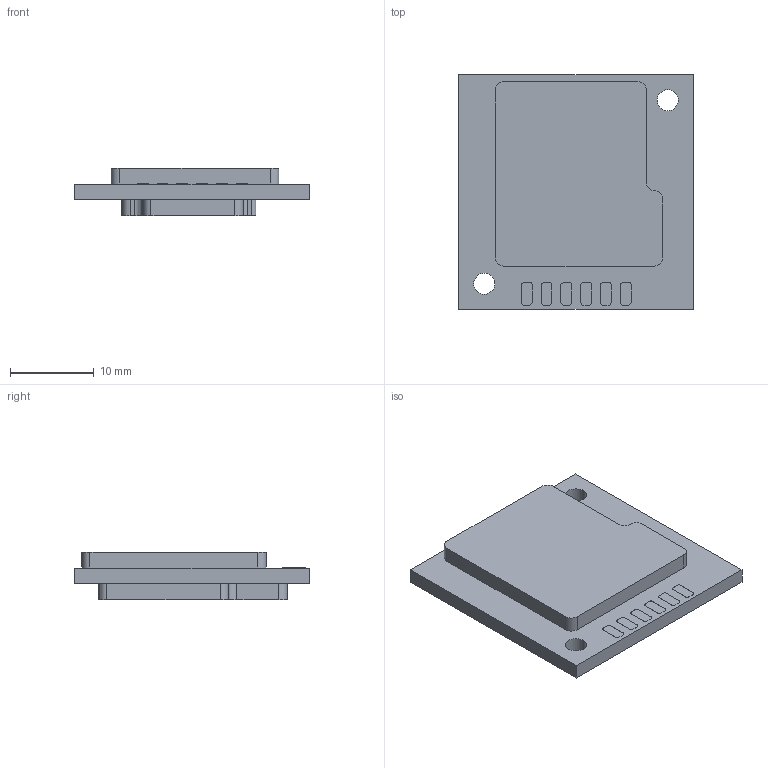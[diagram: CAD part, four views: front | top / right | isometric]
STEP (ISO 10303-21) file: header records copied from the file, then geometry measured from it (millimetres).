
FILE_DESCRIPTION (( 'STEP AP214' ), '1' );
FILE_NAME ('MODM501.STEP', '2024-09-06T07:03:59', ( '' ), ( '' ), 'SwSTEP 2.0', 'SolidWorks 2022', '' );
FILE_SCHEMA (( 'AUTOMOTIVE_DESIGN' ));
Length unit declared in the file: millimetre
Products named in the file (1): MODM501
Bounding box: 28 x 28 x 5.7 mm (x, y, z)
Volume: 2816.5 mm3; surface area: 2119.7 mm2
Topology: 7 solids, 7 shells, 180 faces, 498 edges, 334 vertices
Faces by surface type: plane 160, cylinder 20
Entity records: 7412 total; most frequent: CARTESIAN_POINT 1067, ORIENTED_EDGE 996, DIRECTION 882, EDGE_CURVE 498, VECTOR 440, LINE 440, VERTEX_POINT 334, AXIS2_PLACEMENT_3D 221
